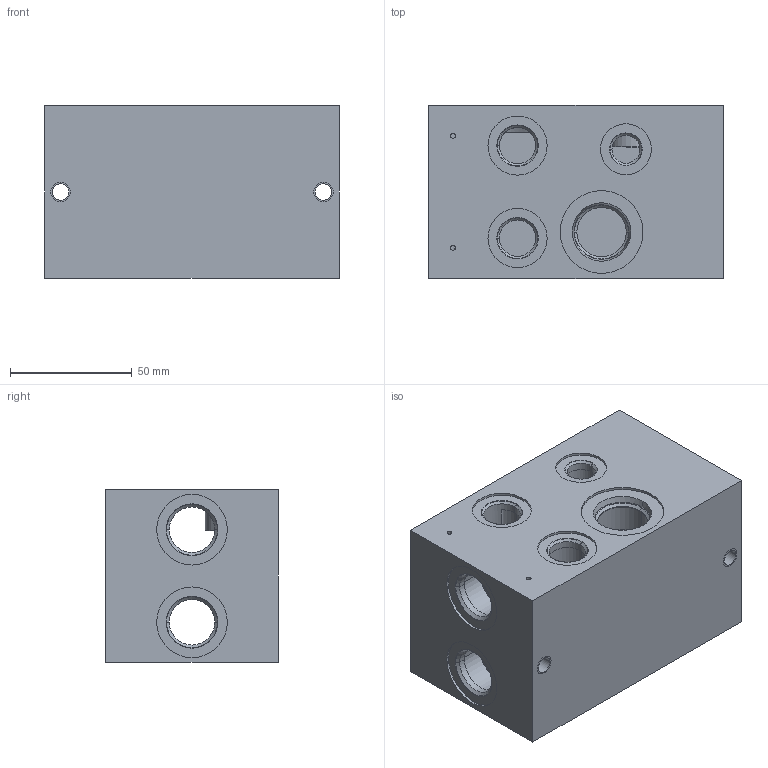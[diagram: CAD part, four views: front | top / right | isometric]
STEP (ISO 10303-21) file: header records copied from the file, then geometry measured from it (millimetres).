
FILE_DESCRIPTION((''),'2;1');
FILE_NAME('27564300','2015-11-27T',('Ahcz.brigadnik05'),(''),'PRO/ENGINEER BY PARAMETRIC TECHNOLOGY CORPORATION, 2015110','PRO/ENGINEER BY PARAMETRIC TECHNOLOGY CORPORATION, 2015110','');
FILE_SCHEMA(('AUTOMOTIVE_DESIGN { 1 0 10303 214 1 1 1 1 }'));
Length unit declared in the file: millimetre
Products named in the file (1): 27564300
Bounding box: 121 x 71 x 71 mm (x, y, z)
Volume: 212204.6 mm3; surface area: 88691.7 mm2
Topology: 1 solids, 20 shells, 188 faces, 659 edges, 581 vertices
Faces by surface type: cylinder 115, plane 44, cone 29
Entity records: 9728 total; most frequent: CARTESIAN_POINT 1699, DIRECTION 1297, ORIENTED_EDGE 926, PRESENTATION_STYLE_ASSIGNMENT 699, STYLED_ITEM 699, CURVE_STYLE 673, EDGE_CURVE 501, AXIS2_PLACEMENT_3D 480
